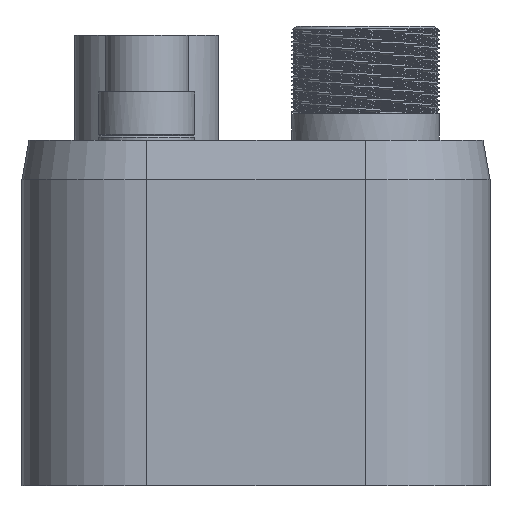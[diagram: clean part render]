
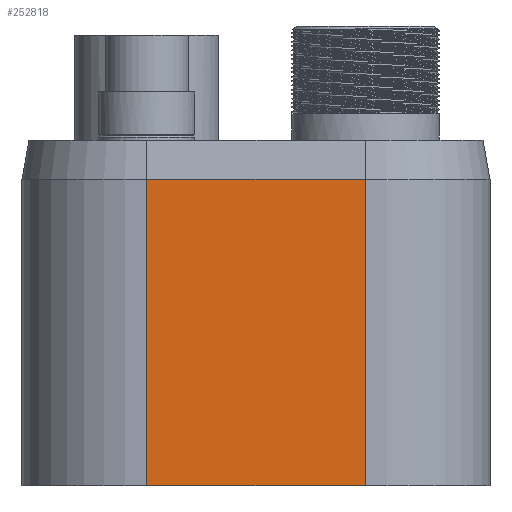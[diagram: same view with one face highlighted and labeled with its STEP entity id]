
A CAD part, front view. The second image highlights one B-rep face of the part: STEP entity #252818.
In plain terms, the highlighted planar face has unit normal (0, -1, 0).
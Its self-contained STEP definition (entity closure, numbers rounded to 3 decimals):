
#252629=CARTESIAN_POINT('',(25.,-262.5,0.));
#252630=VERTEX_POINT('',#252629);
#252638=CARTESIAN_POINT('',(-25.,-262.5,0.));
#252639=VERTEX_POINT('',#252638);
#252640=CARTESIAN_POINT('',(-25.,-262.5,0.));
#252641=DIRECTION('',(1.,-0.,-0.));
#252642=VECTOR('',#252641,50.);
#252643=LINE('',#252640,#252642);
#252644=EDGE_CURVE('',#252639,#252630,#252643,.T.);
#252777=CARTESIAN_POINT('',(25.,-262.5,70.));
#252778=VERTEX_POINT('',#252777);
#252786=CARTESIAN_POINT('',(25.,-262.5,0.));
#252787=DIRECTION('',(0.,0.,1.));
#252788=VECTOR('',#252787,70.);
#252789=LINE('',#252786,#252788);
#252790=EDGE_CURVE('',#252630,#252778,#252789,.T.);
#252795=CARTESIAN_POINT('',(-12.5,-262.5,0.));
#252796=DIRECTION('',(0.,-1.,0.));
#252797=DIRECTION('',(0.,0.,1.));
#252798=AXIS2_PLACEMENT_3D('',#252795,#252796,#252797);
#252799=PLANE('',#252798);
#252800=ORIENTED_EDGE('',*,*,#252644,.T.);
#252801=ORIENTED_EDGE('',*,*,#252790,.T.);
#252802=CARTESIAN_POINT('',(-25.,-262.5,70.));
#252803=VERTEX_POINT('',#252802);
#252804=CARTESIAN_POINT('',(25.,-262.5,70.));
#252805=DIRECTION('',(-1.,0.,0.));
#252806=VECTOR('',#252805,50.);
#252807=LINE('',#252804,#252806);
#252808=EDGE_CURVE('',#252778,#252803,#252807,.T.);
#252809=ORIENTED_EDGE('',*,*,#252808,.T.);
#252810=CARTESIAN_POINT('',(-25.,-262.5,70.));
#252811=DIRECTION('',(-0.,-0.,-1.));
#252812=VECTOR('',#252811,70.);
#252813=LINE('',#252810,#252812);
#252814=EDGE_CURVE('',#252803,#252639,#252813,.T.);
#252815=ORIENTED_EDGE('',*,*,#252814,.T.);
#252816=EDGE_LOOP('',(#252800,#252801,#252809,#252815));
#252817=FACE_BOUND('',#252816,.T.);
#252818=ADVANCED_FACE('',(#252817),#252799,.T.);
